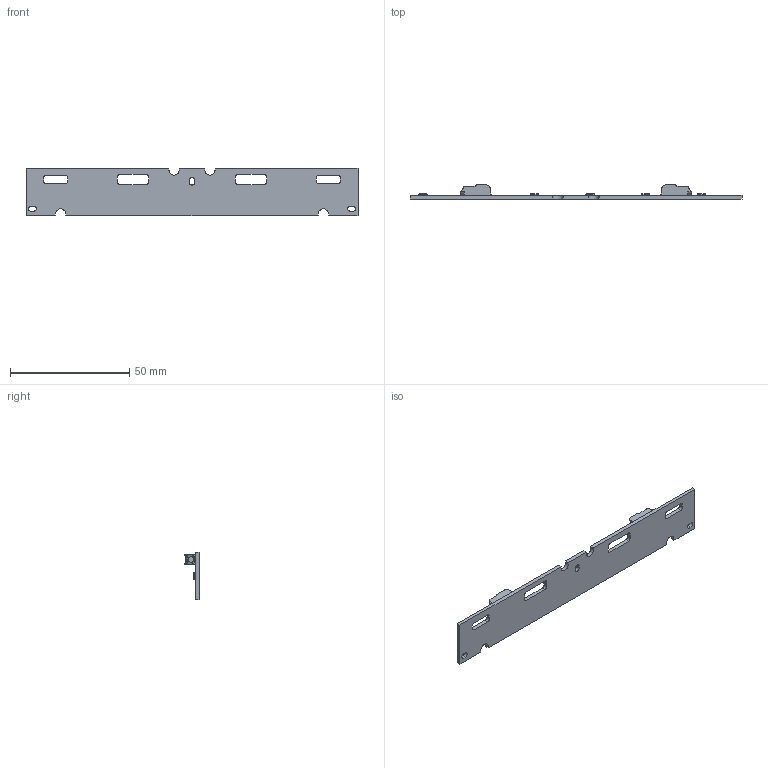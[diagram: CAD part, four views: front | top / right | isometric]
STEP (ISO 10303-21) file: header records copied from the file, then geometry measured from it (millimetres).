
FILE_DESCRIPTION((''),'2;1');
FILE_NAME('ASM_KONEKTORI_LOGO_DIODE1_ASM','2020-10-20T15:14:41',('msavic'),(''),'CREO PARAMETRIC BY PTC INC, 2016510','CREO PARAMETRIC BY PTC INC, 2016510','');
FILE_SCHEMA(('AUTOMOTIVE_DESIGN { 1 0 10303 214 1 1 1 1 }'));
Products named in the file (12): BAZA_WU-M-667_; DIODA_STW8A2PD_ASM; VSO-LOGO-5MM_3; VSO-LOGO-5MM001_2_1; BUILT-IN_LED_MODULE-5MM004_2; BUILT-IN_LED_MODULE-5MM003_2; BUILT-IN_LED_MODULE-5MM002_2; BUILT-IN_LED_MODULE-5MM001_2; CE-ZEICHEN-6MM_2; CE-ZEICHEN-6MM001_2; 2060-452_1_2_3_4; ASM_KONEKTORI_LOGO_DIODE1_ASM
Assembly tree (18 placements, depth 2):
  ASM_KONEKTORI_LOGO_DIODE1_ASM
    BAZA_WU-M-667_
    DIODA_STW8A2PD_ASM  x6
    VSO-LOGO-5MM_3
    VSO-LOGO-5MM001_2_1
    BUILT-IN_LED_MODULE-5MM004_2
    BUILT-IN_LED_MODULE-5MM003_2
    BUILT-IN_LED_MODULE-5MM002_2
    BUILT-IN_LED_MODULE-5MM001_2  x2
    CE-ZEICHEN-6MM_2
    CE-ZEICHEN-6MM001_2
    2060-452_1_2_3_4  x2
Bounding box: 139 x 5.95 x 20 mm (x, y, z)
Volume: 4344.6 mm3; surface area: 6776.8 mm2
Topology: 12 solids, 18 shells, 3480 faces, 9906 edges, 6604 vertices
Faces by surface type: plane 3247, cylinder 221, extrusion 10, sphere 2
Entity records: 116736 total; most frequent: CARTESIAN_POINT 17245, ORIENTED_EDGE 16786, DIRECTION 14692, EDGE_CURVE 8393, VECTOR 8129, LINE 8119, VERTEX_POINT 5596, AXIS2_PLACEMENT_3D 3264
